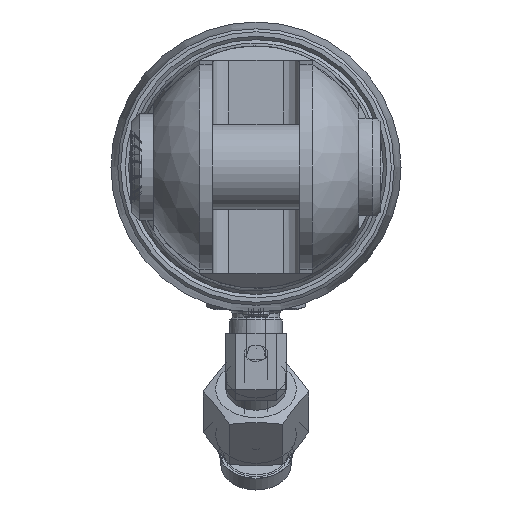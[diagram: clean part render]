
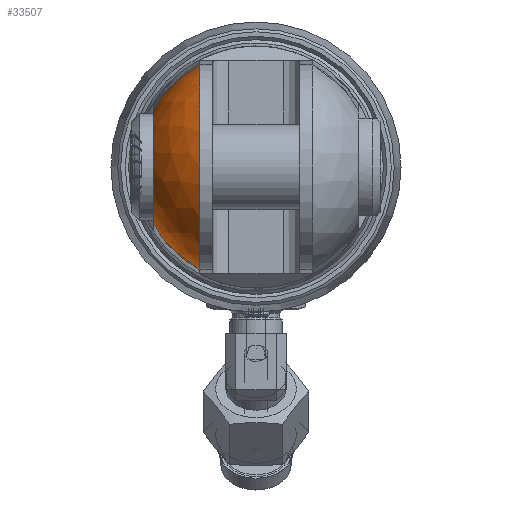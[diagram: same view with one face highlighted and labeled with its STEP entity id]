
A CAD part, left-side view. The second image highlights one B-rep face of the part: STEP entity #33507.
In plain terms, the highlighted spherical face has radius 21.732 mm.
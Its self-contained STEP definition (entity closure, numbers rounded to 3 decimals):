
#16=SPHERICAL_SURFACE('',#34906,21.732);
#3478=FACE_OUTER_BOUND('',#5334,.T.);
#5334=EDGE_LOOP('',(#28934,#28935,#28936,#28937));
#6986=CIRCLE('',#34881,21.729);
#6987=CIRCLE('',#34884,21.729);
#6992=CIRCLE('',#34898,19.056);
#6994=CIRCLE('',#34904,10.447);
#15797=VERTEX_POINT('',#60407);
#15798=VERTEX_POINT('',#60411);
#15802=VERTEX_POINT('',#60422);
#15803=VERTEX_POINT('',#60426);
#20247=EDGE_CURVE('',#15797,#15798,#6986,.T.);
#20253=EDGE_CURVE('',#15802,#15803,#6987,.T.);
#20272=EDGE_CURVE('',#15797,#15803,#6992,.T.);
#20275=EDGE_CURVE('',#15802,#15798,#6994,.T.);
#28934=ORIENTED_EDGE('',*,*,#20272,.T.);
#28935=ORIENTED_EDGE('',*,*,#20253,.F.);
#28936=ORIENTED_EDGE('',*,*,#20275,.T.);
#28937=ORIENTED_EDGE('',*,*,#20247,.F.);
#33507=ADVANCED_FACE('',(#3478),#16,.T.);
#34881=AXIS2_PLACEMENT_3D('',#60412,#40210,#40211);
#34884=AXIS2_PLACEMENT_3D('',#60427,#40217,#40218);
#34898=AXIS2_PLACEMENT_3D('',#60465,#40256,#40257);
#34904=AXIS2_PLACEMENT_3D('',#60472,#40269,#40270);
#34906=AXIS2_PLACEMENT_3D('',#60474,#40273,#40274);
#40210=DIRECTION('center_axis',(1.,0.,0.));
#40211=DIRECTION('ref_axis',(0.,0.,
1.));
#40217=DIRECTION('center_axis',(1.,0.,0.));
#40218=DIRECTION('ref_axis',(0.,0.,
1.));
#40256=DIRECTION('center_axis',(0.,1.,0.));
#40257=DIRECTION('ref_axis',(0.019,0.,-1.));
#40269=DIRECTION('center_axis',(0.,-1.,0.));
#40270=DIRECTION('ref_axis',(0.,0.,
-1.));
#40273=DIRECTION('center_axis',(0.,0.,1.));
#40274=DIRECTION('ref_axis',(-1.,0.,0.));
#60407=CARTESIAN_POINT('',(-45.635,10.447,-19.052));
#60411=CARTESIAN_POINT('',(-45.635,19.056,-10.441));
#60412=CARTESIAN_POINT('Origin',(-45.635,0.,
0.));
#60422=CARTESIAN_POINT('',(-45.635,19.056,10.441));
#60426=CARTESIAN_POINT('',(-45.635,10.447,19.052));
#60427=CARTESIAN_POINT('Origin',(-45.635,0.,
0.));
#60465=CARTESIAN_POINT('Origin',(-45.268,10.447,0.));
#60472=CARTESIAN_POINT('Origin',(-45.268,19.056,0.));
#60474=CARTESIAN_POINT('Origin',(-45.268,0.,
0.));
